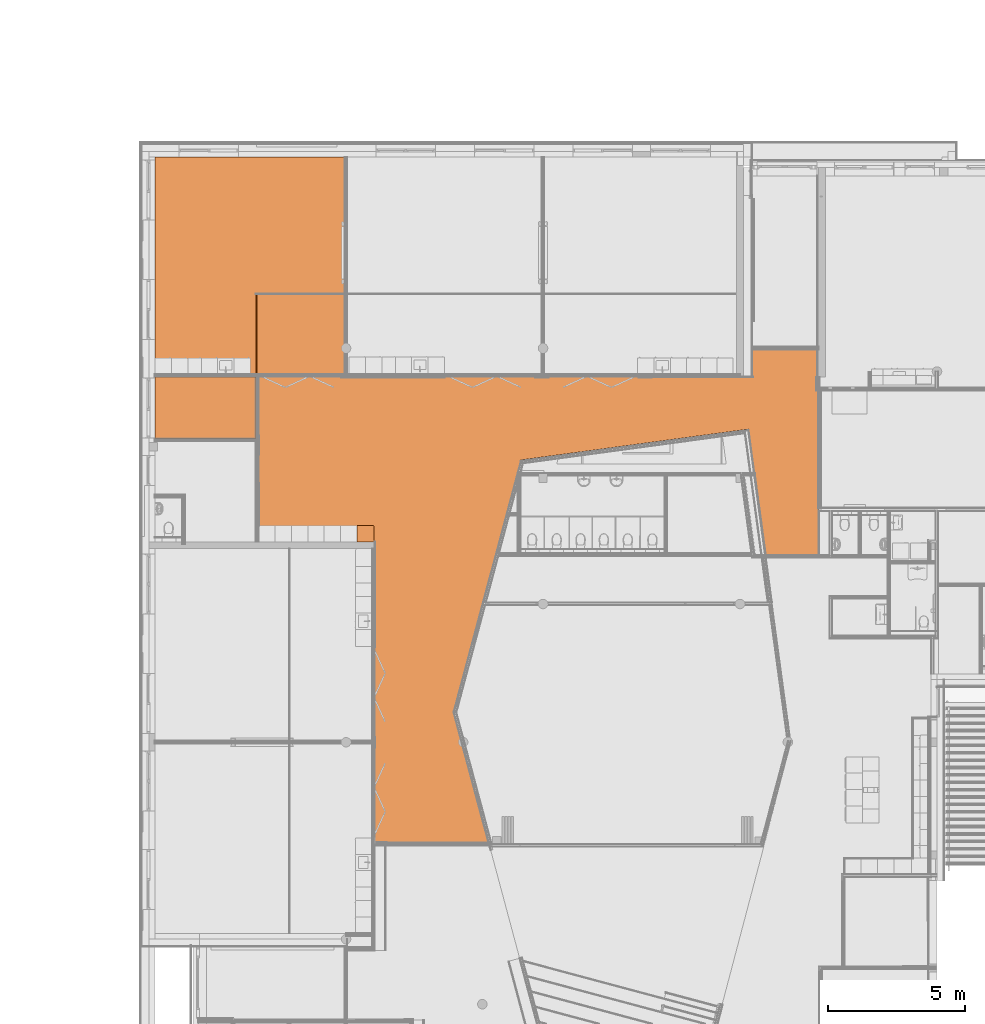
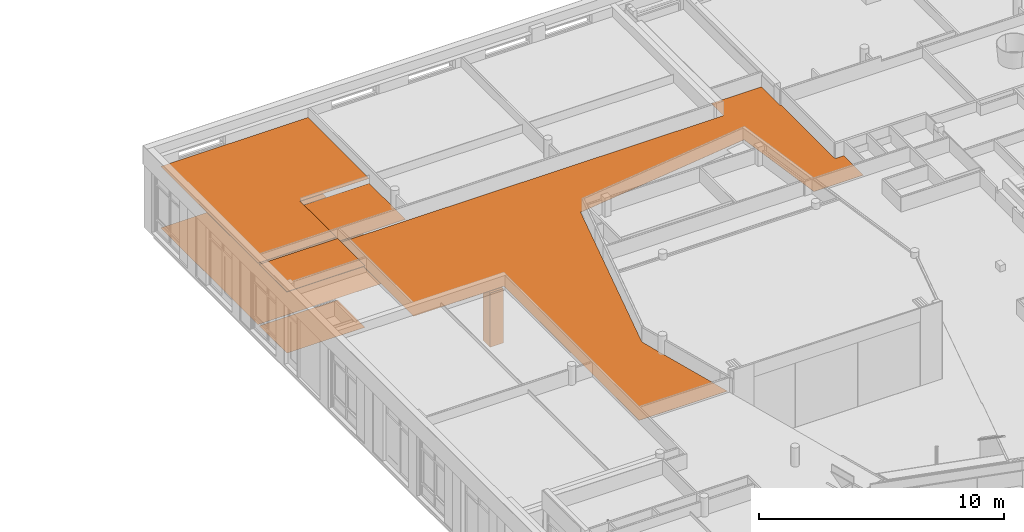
# One storey, part 130 of 167: 7 proxies.
"""IFC2X3 building model written with IfcOpenShell, lengths in millimetres."""

from ifc_helpers import new_model, entity, si_unit, converted_unit, derived_unit, money_unit, direction, frame, origin_with_axes, place, context, subcontext, project, spatial, open_shell, faceted_brep, surface_model, material, type_object, element, save


model = new_model("IFC2X3")

# Units and contexts
model_context = context("Model", 3, precision=0.01, world=origin_with_axes(), true_north=direction((0.0, 1.0)))
plan_context = context("Plan", 3, precision=0.01, world=origin_with_axes(), true_north=direction((0.0, 1.0)))
body_context = subcontext(model_context, "Body", "Model", "MODEL_VIEW")
ifc_project = project(units=[si_unit("LENGTHUNIT", "METRE", prefix="MILLI"), si_unit("AREAUNIT", "SQUARE_METRE"), si_unit("VOLUMEUNIT", "CUBIC_METRE"), converted_unit("PLANEANGLEUNIT", "DEGREE", entity("IfcPlaneAngleMeasure", 0.0174532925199), si_unit("PLANEANGLEUNIT", "RADIAN"), dimensions=[0, 0, 0, 0, 0, 0, 0]), si_unit("SOLIDANGLEUNIT", "STERADIAN"), money_unit("EUR"), converted_unit("TIMEUNIT", "Year", entity("IfcTimeMeasure", 31556926.0), si_unit("TIMEUNIT", "SECOND"), dimensions=[0, 0, 1, 0, 0, 0, 0]), si_unit("MASSUNIT", "GRAM", prefix="KILO"), si_unit("THERMODYNAMICTEMPERATUREUNIT", "DEGREE_CELSIUS"), si_unit("LUMINOUSINTENSITYUNIT", "LUMEN"), si_unit("ENERGYUNIT", "JOULE", prefix="MEGA"), derived_unit("THERMALCONDUCTANCEUNIT", [(si_unit("POWERUNIT", "WATT"), 1), (si_unit("LENGTHUNIT", "METRE"), -1), (si_unit("THERMODYNAMICTEMPERATUREUNIT", "KELVIN"), -1)]), derived_unit("SPECIFICHEATCAPACITYUNIT", [(si_unit("ENERGYUNIT", "JOULE"), 1), (si_unit("MASSUNIT", "GRAM", prefix="KILO"), -1), (si_unit("THERMODYNAMICTEMPERATUREUNIT", "KELVIN"), -1)]), derived_unit("MASSDENSITYUNIT", [(si_unit("MASSUNIT", "GRAM", prefix="KILO"), 1), (si_unit("VOLUMEUNIT", "CUBIC_METRE"), -1)])], contexts=[model_context, plan_context])

# Site, building, storey
site_placement = place(None, origin_with_axes())
site = spatial("IfcSite", under=ifc_project, at=site_placement, Name="Site", CompositionType="ELEMENT")
building_placement = place(site_placement, origin_with_axes())
building = spatial("IfcBuilding", under=site, at=building_placement, Name="Naam gebouw", CompositionType="ELEMENT")
storey_placement = place(building_placement, origin_with_axes())
storey = spatial("IfcBuildingStorey", under=building, at=storey_placement, Name="Begane grond", CompositionType="ELEMENT", Elevation=0.0)

# Proxies
ifc_material_1 = material(Name="ALG - BINNENAFWERKING")
building_element_proxy_type_1 = type_object("IfcBuildingElementProxyType", Name="ALG - BINNENAFWERKING 10", PredefinedType="NOTDEFINED")
proxy_1_placement = place(storey_placement, frame((3948.51453021, 42250.0, 2800.0), z_axis=(0.0, 0.0, 1.0), x_axis=(1.0, 0.0, 0.0)))
element("IfcBuildingElementProxy", 1, at=proxy_1_placement, inside=storey, type_object=building_element_proxy_type_1, material=ifc_material_1, Name="23__Vloer-x", context=body_context, shape_type="Brep", body=[
    faceted_brep([(0.0, 0.0, 10.0), (0.0, 0.0, 0.0), (3201.48546979, 0.0, 0.0), (3201.48546979, 0.0, 10.0), (0.0, 2950.0, 10.0), (0.0, 2950.0, 0.0), (3201.48546979, 2950.0, 0.0), (3201.48546979, 2950.0, 10.0)], [[[0, 1, 2, 3]], [[4, 5, 1, 0]], [[2, 1, 5, 6]], [[3, 2, 6, 7]], [[4, 0, 3, 7]], [[7, 6, 5, 4]]]),
])
proxy_2_placement = place(storey_placement, frame((214.0, 39900.0, 3050.0), z_axis=(0.0, 0.0, 1.0), x_axis=(1.0, 0.0, 0.0)))
element("IfcBuildingElementProxy", 2, at=proxy_2_placement, inside=storey, type_object=building_element_proxy_type_1, material=ifc_material_1, Name="23__Vloer-x", context=body_context, shape_type="Brep", body=[
    faceted_brep([(0.0282441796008, 2248.96564994, 0.0), (0.0279178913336, 2250.0, 0.0), (0.0279178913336, 2250.0, 10.0), (0.0282441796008, 2248.96564994, 10.0), (0.0, 0.0, 0.0), (0.000303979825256, 2250.0, 0.0), (3685.99999446, 2249.99989468, 0.0), (3685.99999446, 0.0, 0.0), (0.000303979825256, 2250.0, 10.0), (0.0, 0.0, 10.0), (3685.99999446, 0.0, 10.0), (3685.99999446, 2249.99989468, 10.0)], [[[0, 1, 2, 3]], [[4, 5, 1, 0, 6, 7]], [[5, 8, 2, 1]], [[3, 2, 8, 9, 10, 11]], [[3, 11, 6, 0]], [[9, 8, 5, 4]], [[11, 10, 7, 6]], [[10, 9, 4, 7]]]),
])
proxy_3_placement = place(storey_placement, frame((4000.0, 39850.0, 2800.0), z_axis=(0.0, 0.0, 1.0), x_axis=(1.0, 0.0, 0.0)))
element("IfcBuildingElementProxy", 3, at=proxy_3_placement, inside=storey, type_object=building_element_proxy_type_1, material=ifc_material_1, Name="23__Vloer-x", context=body_context, shape_type="Brep", body=[
    faceted_brep([(4250.0, -14728.4542428, 0.0), (8413.49140076, -14728.4542428, 0.0), (8413.49140076, -14728.4542428, 10.0), (4250.0, -14728.4542428, 10.0), (7135.7555353, -9959.87907427, 0.0), (4250.0, -3725.0, 0.0), (0.0, -3725.0, 0.0), (0.0, 2299.0, 0.0), (18049.0, 2299.0, 0.0), (18049.0, 2300.0, 0.0), (18085.0, 2300.0, 0.0), (18085.0, 2312.0, 0.0), (18049.0, 2312.0, 0.0), (18049.0, 3300.0, 0.0), (20415.0000092, 3300.0, 0.0), (20414.9982685, 1800.0, 0.0), (20463.5381221, 1800.00006903, 0.0), (20463.5381221, -2600.0, 0.0), (20475.0003574, -2600.0, 0.0), (20475.0003574, -2612.5, 0.0), (20875.0000137, -2612.5, 0.0), (20875.0000137, -4213.6468596, 0.0), (18545.3836014, -4213.6468596, 0.0), (18150.3595838, -1310.78837165, 0.0), (18158.0678024, -1310.78837165, 0.0), (18158.0678024, -1210.78837165, 0.0), (18136.7514793, -1210.78837165, 0.0), (17918.3963421, 393.807894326, 0.0), (9581.58750498, -735.317314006, 0.0), (7135.7555353, -9959.87907427, 10.0), (9581.58750498, -735.317314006, 10.0), (17918.3963421, 393.807894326, 10.0), (18136.7514793, -1210.78837165, 10.0), (18158.0678024, -1210.78837165, 10.0), (18158.0678024, -1310.78837165, 10.0), (18150.3595838, -1310.78837165, 10.0), (18545.3836014, -4213.6468596, 10.0), (20875.0000137, -4213.6468596, 10.0), (20875.0000137, -2612.5, 10.0), (20475.0003574, -2612.5, 10.0), (20475.0003574, -2600.0, 10.0), (20463.5381221, -2600.0, 10.0), (20463.5381221, 1800.00006903, 10.0), (20414.9982685, 1800.0, 10.0), (20415.0000092, 3300.0, 10.0), (18049.0, 3300.0, 10.0), (18049.0, 2312.0, 10.0), (18085.0, 2312.0, 10.0), (18085.0, 2300.0, 10.0), (18049.0, 2300.0, 10.0), (18049.0, 2299.0, 10.0), (0.0, 2299.0, 10.0), (0.0, -3725.0, 10.0), (4250.0, -3725.0, 10.0)], [[[0, 1, 2, 3]], [[4, 1, 0, 5, 6, 7, 8, 9, 10, 11, 12, 13, 14, 15, 16, 17, 18, 19, 20, 21, 22, 23, 24, 25, 26, 27, 28]], [[29, 2, 1, 4]], [[3, 2, 29, 30, 31, 32, 33, 34, 35, 36, 37, 38, 39, 40, 41, 42, 43, 44, 45, 46, 47, 48, 49, 50, 51, 52, 53]], [[3, 53, 5, 0]], [[53, 52, 6, 5]], [[52, 51, 7, 6]], [[51, 50, 8, 7]], [[50, 49, 9, 8]], [[9, 49, 48, 10]], [[10, 48, 47, 11]], [[11, 47, 46, 12]], [[13, 12, 46, 45]], [[45, 44, 14, 13]], [[44, 43, 15, 14]], [[43, 42, 16, 15]], [[42, 41, 17, 16]], [[41, 40, 18, 17]], [[19, 18, 40, 39]], [[19, 39, 38, 20]], [[21, 20, 38, 37]], [[37, 36, 22, 21]], [[36, 35, 23, 22]], [[23, 35, 34, 24]], [[33, 25, 24, 34]], [[25, 33, 32, 26]], [[27, 26, 32, 31]], [[31, 30, 28, 27]], [[30, 29, 4, 28]]]),
])
proxy_4_placement = place(storey_placement, frame((214.0, 50185.9999182, 3050.0), z_axis=(0.0, 0.0, 1.0), x_axis=(1.0, 0.0, 0.0)))
element("IfcBuildingElementProxy", 4, at=proxy_4_placement, inside=storey, type_object=building_element_proxy_type_1, material=ifc_material_1, Name="23__Vloer-x", context=body_context, shape_type="Brep", body=[
    faceted_brep([(3685.97206763, -7935.99991824, 0.0), (3685.14410061, -5010.99991824, 0.0), (3685.14410061, -5010.99991824, 10.0), (3685.97206763, -7935.99991824, 10.0), (3685.14410061, -4985.99991824, 0.0), (0.00031730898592, -7935.99991824, 0.0), (0.0, 0.0, 0.0), (6935.99998337, 0.0, 0.0), (6935.99998337, -4985.99992655, 0.0), (3685.14410061, -4985.99991824, 10.0), (6935.99998337, -4985.99992655, 10.0), (6935.99998337, 0.0, 10.0), (0.0, 0.0, 10.0), (0.00031730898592, -7935.99991824, 10.0)], [[[0, 1, 2, 3]], [[4, 1, 0, 5, 6, 7, 8]], [[1, 4, 9, 2]], [[2, 9, 10, 11, 12, 13, 3]], [[13, 5, 0, 3]], [[12, 6, 5, 13]], [[11, 7, 6, 12]], [[10, 8, 7, 11]], [[10, 9, 4, 8]]]),
])
building_element_proxy_type_2 = type_object("IfcBuildingElementProxyType", Name="Kast hoog 1D 24", PredefinedType="NOTDEFINED")
proxy_5_placement = place(storey_placement, frame((8220.0, 36725.0, 0.0), z_axis=(0.0, 0.0, 1.0), x_axis=(-1.0, 0.0, 0.0)))
element("IfcBuildingElementProxy", 5, at=proxy_5_placement, inside=storey, type_object=building_element_proxy_type_2, Name="__Object-x", context=body_context, shape_type="SurfaceModel", body=[
    faceted_brep([(40.0, 20.0, 1780.0), (600.0, 20.0, 1780.0), (600.0, 20.0, 1800.0), (40.0, 20.0, 1800.0), (40.0, 580.0, 1780.0), (600.0, 580.0, 1780.0), (600.0, 580.0, 1800.0), (40.0, 580.0, 1800.0)], [[[0, 1, 2, 3]], [[0, 4, 5, 1]], [[1, 5, 6, 2]], [[3, 2, 6, 7]], [[4, 0, 3, 7]], [[5, 4, 7, 6]]]),
    faceted_brep([(20.0, 20.0, 0.0), (620.0, 20.0, 0.0), (620.0, 20.0, 90.0), (20.0, 20.0, 90.0), (20.0, 600.0, 0.0), (620.0, 600.0, 0.0), (620.0, 600.0, 90.0), (20.0, 600.0, 90.0)], [[[0, 1, 2, 3]], [[0, 4, 5, 1]], [[1, 5, 6, 2]], [[3, 2, 6, 7]], [[4, 0, 3, 7]], [[5, 4, 7, 6]]]),
    faceted_brep([(20.0, 20.0, 2680.0), (40.0, 20.0, 2680.0), (40.0, 20.0, 2700.0), (20.0, 20.0, 2700.0), (20.0, 600.0, 2680.0), (40.0, 600.0, 2680.0), (600.0, 600.0, 2680.0), (620.0, 600.0, 2680.0), (620.0, 20.0, 2680.0), (600.0, 20.0, 2680.0), (600.0, 20.0, 2700.0), (620.0, 20.0, 2700.0), (620.0, 600.0, 2700.0), (600.0, 600.0, 2700.0), (40.0, 600.0, 2700.0), (20.0, 600.0, 2700.0)], [[[0, 1, 2, 3]], [[0, 4, 5, 6, 7, 8, 9, 1]], [[1, 9, 10, 2]], [[3, 2, 10, 11, 12, 13, 14, 15]], [[4, 0, 3, 15]], [[5, 4, 15, 14]], [[6, 5, 14, 13]], [[7, 6, 13, 12]], [[8, 7, 12, 11]], [[9, 8, 11, 10]]]),
    faceted_brep([(20.0, 20.0, 90.0), (40.0, 20.0, 90.0), (40.0, 20.0, 110.0), (20.0, 20.0, 110.0), (20.0, 600.0, 90.0), (40.0, 600.0, 90.0), (600.0, 600.0, 90.0), (620.0, 600.0, 90.0), (620.0, 20.0, 90.0), (600.0, 20.0, 90.0), (600.0, 20.0, 110.0), (620.0, 20.0, 110.0), (620.0, 600.0, 110.0), (600.0, 600.0, 110.0), (40.0, 600.0, 110.0), (20.0, 600.0, 110.0)], [[[0, 1, 2, 3]], [[0, 4, 5, 6, 7, 8, 9, 1]], [[1, 9, 10, 2]], [[3, 2, 10, 11, 12, 13, 14, 15]], [[4, 0, 3, 15]], [[5, 4, 15, 14]], [[6, 5, 14, 13]], [[7, 6, 13, 12]], [[8, 7, 12, 11]], [[9, 8, 11, 10]]]),
    faceted_brep([(20.0, 20.0, 110.0), (40.0, 20.0, 110.0), (40.0, 20.0, 2680.0), (20.0, 20.0, 2680.0), (20.0, 600.0, 110.0), (620.0, 600.0, 110.0), (620.0, 20.0, 110.0), (600.0, 20.0, 110.0), (600.0, 580.0, 110.0), (40.0, 580.0, 110.0), (40.0, 580.0, 2680.0), (600.0, 580.0, 2680.0), (600.0, 20.0, 2680.0), (620.0, 20.0, 2680.0), (620.0, 600.0, 2680.0), (20.0, 600.0, 2680.0)], [[[0, 1, 2, 3]], [[0, 4, 5, 6, 7, 8, 9, 1]], [[1, 9, 10, 2]], [[3, 2, 10, 11, 12, 13, 14, 15]], [[4, 0, 3, 15]], [[5, 4, 15, 14]], [[6, 5, 14, 13]], [[7, 6, 13, 12]], [[8, 7, 12, 11]], [[9, 8, 11, 10]]]),
    faceted_brep([(600.0, 20.0, 414.0), (600.0, 580.0, 414.0), (600.0, 580.0, 434.0), (600.0, 20.0, 434.0), (40.0, 20.0, 414.0), (40.0, 580.0, 414.0), (40.0, 580.0, 434.0), (40.0, 20.0, 434.0)], [[[0, 1, 2, 3]], [[0, 4, 5, 1]], [[1, 5, 6, 2]], [[3, 2, 6, 7]], [[4, 0, 3, 7]], [[5, 4, 7, 6]]]),
    faceted_brep([(600.0, 20.0, 758.0), (600.0, 580.0, 758.0), (600.0, 580.0, 778.0), (600.0, 20.0, 778.0), (40.0, 20.0, 758.0), (40.0, 580.0, 758.0), (40.0, 580.0, 778.0), (40.0, 20.0, 778.0)], [[[0, 1, 2, 3]], [[0, 4, 5, 1]], [[1, 5, 6, 2]], [[3, 2, 6, 7]], [[4, 0, 3, 7]], [[5, 4, 7, 6]]]),
    faceted_brep([(600.0, 20.0, 1102.0), (600.0, 580.0, 1102.0), (600.0, 580.0, 1122.0), (600.0, 20.0, 1122.0), (40.0, 20.0, 1102.0), (40.0, 580.0, 1102.0), (40.0, 580.0, 1122.0), (40.0, 20.0, 1122.0)], [[[0, 1, 2, 3]], [[0, 4, 5, 1]], [[1, 5, 6, 2]], [[3, 2, 6, 7]], [[4, 0, 3, 7]], [[5, 4, 7, 6]]]),
    faceted_brep([(600.0, 20.0, 1446.0), (600.0, 580.0, 1446.0), (600.0, 580.0, 1466.0), (600.0, 20.0, 1466.0), (40.0, 20.0, 1446.0), (40.0, 580.0, 1446.0), (40.0, 580.0, 1466.0), (40.0, 20.0, 1466.0)], [[[0, 1, 2, 3]], [[0, 4, 5, 1]], [[1, 5, 6, 2]], [[3, 2, 6, 7]], [[4, 0, 3, 7]], [[5, 4, 7, 6]]]),
    faceted_brep([(21.5, 20.0, 91.5), (618.5, 20.0, 91.5), (618.5, 0.0, 91.5), (21.5, 0.0, 91.5), (21.5, 20.0, 1788.5), (618.5, 20.0, 1788.5), (618.5, 0.0, 1788.5), (21.5, 0.0, 1788.5)], [[[0, 1, 2, 3]], [[0, 4, 5, 1]], [[1, 5, 6, 2]], [[3, 2, 6, 7]], [[4, 0, 3, 7]], [[5, 4, 7, 6]]]),
    faceted_brep([(571.397777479, -27.7764571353, 891.5), (571.098076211, -28.5, 891.5), (570.621320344, -29.1213203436, 891.5), (570.0, -29.5980762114, 891.5), (569.276457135, -29.8977774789, 891.5), (568.5, -30.0, 891.5), (567.723542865, -29.8977774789, 891.5), (567.0, -29.5980762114, 891.5), (566.378679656, -29.1213203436, 891.5), (565.901923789, -28.5, 891.5), (565.602222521, -27.7764571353, 891.5), (565.5, -27.0, 891.5), (565.602222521, -26.2235428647, 891.5), (565.901923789, -25.5, 891.5), (566.378679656, -24.8786796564, 891.5), (567.0, -24.4019237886, 891.5), (567.723542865, -24.1022225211, 891.5), (568.5, -24.0, 891.5), (569.276457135, -24.1022225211, 891.5), (570.0, -24.4019237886, 891.5), (570.621320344, -24.8786796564, 891.5), (571.098076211, -25.5, 891.5), (571.397777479, -26.2235428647, 891.5), (571.5, -27.0, 891.5), (571.397777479, -27.7764571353, 1141.5), (571.098076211, -28.5, 1141.5), (570.621320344, -29.1213203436, 1141.5), (570.0, -29.5980762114, 1141.5), (569.276457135, -29.8977774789, 1141.5), (568.5, -30.0, 1141.5), (567.723542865, -29.8977774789, 1141.5), (567.0, -29.5980762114, 1141.5), (566.378679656, -29.1213203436, 1141.5), (565.901923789, -28.5, 1141.5), (565.602222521, -27.7764571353, 1141.5), (565.5, -27.0, 1141.5), (565.602222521, -26.2235428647, 1141.5), (565.901923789, -25.5, 1141.5), (566.378679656, -24.8786796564, 1141.5), (567.0, -24.4019237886, 1141.5), (567.723542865, -24.1022225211, 1141.5), (568.5, -24.0, 1141.5), (569.276457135, -24.1022225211, 1141.5), (570.0, -24.4019237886, 1141.5), (570.621320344, -24.8786796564, 1141.5), (571.098076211, -25.5, 1141.5), (571.397777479, -26.2235428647, 1141.5), (571.5, -27.0, 1141.5)], [[[0, 1, 2, 3, 4, 5, 6, 7, 8, 9, 10, 11, 12, 13, 14, 15, 16, 17, 18, 19, 20, 21, 22, 23]], [[1, 0, 24, 25]], [[2, 1, 25, 26]], [[3, 2, 26, 27]], [[4, 3, 27, 28]], [[5, 4, 28, 29]], [[6, 5, 29, 30]], [[7, 6, 30, 31]], [[8, 7, 31, 32]], [[9, 8, 32, 33]], [[10, 9, 33, 34]], [[11, 10, 34, 35]], [[12, 11, 35, 36]], [[13, 12, 36, 37]], [[14, 13, 37, 38]], [[15, 14, 38, 39]], [[16, 15, 39, 40]], [[17, 16, 40, 41]], [[18, 17, 41, 42]], [[19, 18, 42, 43]], [[20, 19, 43, 44]], [[21, 20, 44, 45]], [[22, 21, 45, 46]], [[23, 22, 46, 47]], [[0, 23, 47, 24]], [[24, 47, 46, 45, 44, 43, 42, 41, 40, 39, 38, 37, 36, 35, 34, 33, 32, 31, 30, 29, 28, 27, 26, 25]]]),
    surface_model("IfcShellBasedSurfaceModel", [(569.147047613, -24.070609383, 914.085185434), (568.5, -24.0, 914.0), (568.5, 0.0, 914.0), (569.147047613, 0.0, 914.085185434), (567.852952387, -24.070609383, 914.085185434), (567.852952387, 0.0, 914.085185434), (567.25, 0.0, 914.334936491), (566.732233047, 0.0, 914.732233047), (566.334936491, 0.0, 915.25), (566.085185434, 0.0, 915.852952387), (566.0, 0.0, 916.5), (566.085185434, 0.0, 917.147047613), (566.334936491, 0.0, 917.75), (566.732233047, 0.0, 918.267766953), (567.25, 0.0, 918.665063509), (567.852952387, 0.0, 918.914814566), (568.5, 0.0, 919.0), (569.147047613, 0.0, 918.914814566), (569.75, 0.0, 918.665063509), (570.267766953, 0.0, 918.267766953), (570.665063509, 0.0, 917.75), (570.914814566, 0.0, 917.147047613), (571.0, 0.0, 916.5), (570.914814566, 0.0, 915.852952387), (570.665063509, 0.0, 915.25), (570.267766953, 0.0, 914.732233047), (569.75, 0.0, 914.334936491), (569.75, -24.2728219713, 914.334936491), (567.25, -24.2728219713, 914.334936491), (566.732233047, -24.5761600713, 914.732233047), (566.334936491, -24.9233440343, 915.25), (566.085185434, -25.2199239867, 915.852952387), (566.0, -25.3416876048, 916.5), (566.085185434, -25.2199239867, 917.147047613), (566.334936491, -24.9233440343, 917.75), (566.732233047, -24.5761600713, 918.267766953), (567.25, -24.2728219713, 918.665063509), (567.852952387, -24.070609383, 918.914814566), (568.5, -24.0, 919.0), (569.147047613, -24.070609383, 918.914814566), (569.75, -24.2728219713, 918.665063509), (570.267766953, -24.5761600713, 918.267766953), (570.665063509, -24.9233440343, 917.75), (570.914814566, -25.2199239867, 917.147047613), (571.0, -25.3416876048, 916.5), (570.914814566, -25.2199239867, 915.852952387), (570.665063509, -24.9233440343, 915.25), (570.267766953, -24.5761600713, 914.732233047)], [open_shell([[[0, 1, 2, 3]], [[1, 4, 5, 2]], [[3, 2, 5, 6, 7, 8, 9, 10, 11, 12, 13, 14, 15, 16, 17, 18, 19, 20, 21, 22, 23, 24, 25, 26]], [[27, 0, 3, 26]], [[4, 28, 6, 5]], [[28, 29, 7, 6]], [[29, 30, 8, 7]], [[30, 31, 9, 8]], [[31, 32, 10, 9]], [[32, 33, 11, 10]], [[33, 34, 12, 11]], [[34, 35, 13, 12]], [[35, 36, 14, 13]], [[36, 37, 15, 14]], [[37, 38, 16, 15]], [[38, 39, 17, 16]], [[39, 40, 18, 17]], [[40, 41, 19, 18]], [[41, 42, 20, 19]], [[42, 43, 21, 20]], [[43, 44, 22, 21]], [[44, 45, 23, 22]], [[45, 46, 24, 23]], [[46, 47, 25, 24]], [[47, 27, 26, 25]]])]),
    surface_model("IfcShellBasedSurfaceModel", [(569.147047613, -24.070609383, 1114.08518543), (568.5, -24.0, 1114.0), (568.5, 0.0, 1114.0), (569.147047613, 0.0, 1114.08518543), (567.852952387, -24.070609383, 1114.08518543), (567.852952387, 0.0, 1114.08518543), (567.25, 0.0, 1114.33493649), (566.732233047, 0.0, 1114.73223305), (566.334936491, 0.0, 1115.25), (566.085185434, 0.0, 1115.85295239), (566.0, 0.0, 1116.5), (566.085185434, 0.0, 1117.14704761), (566.334936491, 0.0, 1117.75), (566.732233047, 0.0, 1118.26776695), (567.25, 0.0, 1118.66506351), (567.852952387, 0.0, 1118.91481457), (568.5, 0.0, 1119.0), (569.147047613, 0.0, 1118.91481457), (569.75, 0.0, 1118.66506351), (570.267766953, 0.0, 1118.26776695), (570.665063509, 0.0, 1117.75), (570.914814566, 0.0, 1117.14704761), (571.0, 0.0, 1116.5), (570.914814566, 0.0, 1115.85295239), (570.665063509, 0.0, 1115.25), (570.267766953, 0.0, 1114.73223305), (569.75, 0.0, 1114.33493649), (569.75, -24.2728219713, 1114.33493649), (567.25, -24.2728219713, 1114.33493649), (566.732233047, -24.5761600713, 1114.73223305), (566.334936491, -24.9233440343, 1115.25), (566.085185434, -25.2199239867, 1115.85295239), (566.0, -25.3416876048, 1116.5), (566.085185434, -25.2199239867, 1117.14704761), (566.334936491, -24.9233440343, 1117.75), (566.732233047, -24.5761600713, 1118.26776695), (567.25, -24.2728219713, 1118.66506351), (567.852952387, -24.070609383, 1118.91481457), (568.5, -24.0, 1119.0), (569.147047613, -24.070609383, 1118.91481457), (569.75, -24.2728219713, 1118.66506351), (570.267766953, -24.5761600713, 1118.26776695), (570.665063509, -24.9233440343, 1117.75), (570.914814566, -25.2199239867, 1117.14704761), (571.0, -25.3416876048, 1116.5), (570.914814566, -25.2199239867, 1115.85295239), (570.665063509, -24.9233440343, 1115.25), (570.267766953, -24.5761600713, 1114.73223305)], [open_shell([[[0, 1, 2, 3]], [[1, 4, 5, 2]], [[3, 2, 5, 6, 7, 8, 9, 10, 11, 12, 13, 14, 15, 16, 17, 18, 19, 20, 21, 22, 23, 24, 25, 26]], [[27, 0, 3, 26]], [[4, 28, 6, 5]], [[28, 29, 7, 6]], [[29, 30, 8, 7]], [[30, 31, 9, 8]], [[31, 32, 10, 9]], [[32, 33, 11, 10]], [[33, 34, 12, 11]], [[34, 35, 13, 12]], [[35, 36, 14, 13]], [[36, 37, 15, 14]], [[37, 38, 16, 15]], [[38, 39, 17, 16]], [[39, 40, 18, 17]], [[40, 41, 19, 18]], [[41, 42, 20, 19]], [[42, 43, 21, 20]], [[43, 44, 22, 21]], [[44, 45, 23, 22]], [[45, 46, 24, 23]], [[46, 47, 25, 24]], [[47, 27, 26, 25]]])]),
    faceted_brep([(21.5, 20.0, 1791.5), (618.5, 20.0, 1791.5), (618.5, 0.0, 1791.5), (21.5, 0.0, 1791.5), (21.5, 20.0, 2698.5), (618.5, 20.0, 2698.5), (618.5, 0.0, 2698.5), (21.5, 0.0, 2698.5)], [[[0, 1, 2, 3]], [[0, 4, 5, 1]], [[1, 5, 6, 2]], [[3, 2, 6, 7]], [[4, 0, 3, 7]], [[5, 4, 7, 6]]]),
    faceted_brep([(571.397777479, -27.7764571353, 1841.5), (571.098076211, -28.5, 1841.5), (570.621320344, -29.1213203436, 1841.5), (570.0, -29.5980762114, 1841.5), (569.276457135, -29.8977774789, 1841.5), (568.5, -30.0, 1841.5), (567.723542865, -29.8977774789, 1841.5), (567.0, -29.5980762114, 1841.5), (566.378679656, -29.1213203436, 1841.5), (565.901923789, -28.5, 1841.5), (565.602222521, -27.7764571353, 1841.5), (565.5, -27.0, 1841.5), (565.602222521, -26.2235428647, 1841.5), (565.901923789, -25.5, 1841.5), (566.378679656, -24.8786796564, 1841.5), (567.0, -24.4019237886, 1841.5), (567.723542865, -24.1022225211, 1841.5), (568.5, -24.0, 1841.5), (569.276457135, -24.1022225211, 1841.5), (570.0, -24.4019237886, 1841.5), (570.621320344, -24.8786796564, 1841.5), (571.098076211, -25.5, 1841.5), (571.397777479, -26.2235428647, 1841.5), (571.5, -27.0, 1841.5), (571.397777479, -27.7764571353, 2091.5), (571.098076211, -28.5, 2091.5), (570.621320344, -29.1213203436, 2091.5), (570.0, -29.5980762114, 2091.5), (569.276457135, -29.8977774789, 2091.5), (568.5, -30.0, 2091.5), (567.723542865, -29.8977774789, 2091.5), (567.0, -29.5980762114, 2091.5), (566.378679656, -29.1213203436, 2091.5), (565.901923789, -28.5, 2091.5), (565.602222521, -27.7764571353, 2091.5), (565.5, -27.0, 2091.5), (565.602222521, -26.2235428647, 2091.5), (565.901923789, -25.5, 2091.5), (566.378679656, -24.8786796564, 2091.5), (567.0, -24.4019237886, 2091.5), (567.723542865, -24.1022225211, 2091.5), (568.5, -24.0, 2091.5), (569.276457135, -24.1022225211, 2091.5), (570.0, -24.4019237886, 2091.5), (570.621320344, -24.8786796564, 2091.5), (571.098076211, -25.5, 2091.5), (571.397777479, -26.2235428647, 2091.5), (571.5, -27.0, 2091.5)], [[[0, 1, 2, 3, 4, 5, 6, 7, 8, 9, 10, 11, 12, 13, 14, 15, 16, 17, 18, 19, 20, 21, 22, 23]], [[1, 0, 24, 25]], [[2, 1, 25, 26]], [[3, 2, 26, 27]], [[4, 3, 27, 28]], [[5, 4, 28, 29]], [[6, 5, 29, 30]], [[7, 6, 30, 31]], [[8, 7, 31, 32]], [[9, 8, 32, 33]], [[10, 9, 33, 34]], [[11, 10, 34, 35]], [[12, 11, 35, 36]], [[13, 12, 36, 37]], [[14, 13, 37, 38]], [[15, 14, 38, 39]], [[16, 15, 39, 40]], [[17, 16, 40, 41]], [[18, 17, 41, 42]], [[19, 18, 42, 43]], [[20, 19, 43, 44]], [[21, 20, 44, 45]], [[22, 21, 45, 46]], [[23, 22, 46, 47]], [[0, 23, 47, 24]], [[24, 47, 46, 45, 44, 43, 42, 41, 40, 39, 38, 37, 36, 35, 34, 33, 32, 31, 30, 29, 28, 27, 26, 25]]]),
    surface_model("IfcShellBasedSurfaceModel", [(569.147047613, -24.070609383, 1864.08518543), (568.5, -24.0, 1864.0), (568.5, 0.0, 1864.0), (569.147047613, 0.0, 1864.08518543), (567.852952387, -24.070609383, 1864.08518543), (567.852952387, 0.0, 1864.08518543), (567.25, 0.0, 1864.33493649), (566.732233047, 0.0, 1864.73223305), (566.334936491, 0.0, 1865.25), (566.085185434, 0.0, 1865.85295239), (566.0, 0.0, 1866.5), (566.085185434, 0.0, 1867.14704761), (566.334936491, 0.0, 1867.75), (566.732233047, 0.0, 1868.26776695), (567.25, 0.0, 1868.66506351), (567.852952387, 0.0, 1868.91481457), (568.5, 0.0, 1869.0), (569.147047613, 0.0, 1868.91481457), (569.75, 0.0, 1868.66506351), (570.267766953, 0.0, 1868.26776695), (570.665063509, 0.0, 1867.75), (570.914814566, 0.0, 1867.14704761), (571.0, 0.0, 1866.5), (570.914814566, 0.0, 1865.85295239), (570.665063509, 0.0, 1865.25), (570.267766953, 0.0, 1864.73223305), (569.75, 0.0, 1864.33493649), (569.75, -24.2728219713, 1864.33493649), (567.25, -24.2728219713, 1864.33493649), (566.732233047, -24.5761600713, 1864.73223305), (566.334936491, -24.9233440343, 1865.25), (566.085185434, -25.2199239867, 1865.85295239), (566.0, -25.3416876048, 1866.5), (566.085185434, -25.2199239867, 1867.14704761), (566.334936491, -24.9233440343, 1867.75), (566.732233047, -24.5761600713, 1868.26776695), (567.25, -24.2728219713, 1868.66506351), (567.852952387, -24.070609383, 1868.91481457), (568.5, -24.0, 1869.0), (569.147047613, -24.070609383, 1868.91481457), (569.75, -24.2728219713, 1868.66506351), (570.267766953, -24.5761600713, 1868.26776695), (570.665063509, -24.9233440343, 1867.75), (570.914814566, -25.2199239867, 1867.14704761), (571.0, -25.3416876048, 1866.5), (570.914814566, -25.2199239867, 1865.85295239), (570.665063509, -24.9233440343, 1865.25), (570.267766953, -24.5761600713, 1864.73223305)], [open_shell([[[0, 1, 2, 3]], [[1, 4, 5, 2]], [[3, 2, 5, 6, 7, 8, 9, 10, 11, 12, 13, 14, 15, 16, 17, 18, 19, 20, 21, 22, 23, 24, 25, 26]], [[27, 0, 3, 26]], [[4, 28, 6, 5]], [[28, 29, 7, 6]], [[29, 30, 8, 7]], [[30, 31, 9, 8]], [[31, 32, 10, 9]], [[32, 33, 11, 10]], [[33, 34, 12, 11]], [[34, 35, 13, 12]], [[35, 36, 14, 13]], [[36, 37, 15, 14]], [[37, 38, 16, 15]], [[38, 39, 17, 16]], [[39, 40, 18, 17]], [[40, 41, 19, 18]], [[41, 42, 20, 19]], [[42, 43, 21, 20]], [[43, 44, 22, 21]], [[44, 45, 23, 22]], [[45, 46, 24, 23]], [[46, 47, 25, 24]], [[47, 27, 26, 25]]])]),
    surface_model("IfcShellBasedSurfaceModel", [(569.147047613, -24.070609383, 2064.08518543), (568.5, -24.0, 2064.0), (568.5, 0.0, 2064.0), (569.147047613, 0.0, 2064.08518543), (567.852952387, -24.070609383, 2064.08518543), (567.852952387, 0.0, 2064.08518543), (567.25, 0.0, 2064.33493649), (566.732233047, 0.0, 2064.73223305), (566.334936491, 0.0, 2065.25), (566.085185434, 0.0, 2065.85295239), (566.0, 0.0, 2066.5), (566.085185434, 0.0, 2067.14704761), (566.334936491, 0.0, 2067.75), (566.732233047, 0.0, 2068.26776695), (567.25, 0.0, 2068.66506351), (567.852952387, 0.0, 2068.91481457), (568.5, 0.0, 2069.0), (569.147047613, 0.0, 2068.91481457), (569.75, 0.0, 2068.66506351), (570.267766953, 0.0, 2068.26776695), (570.665063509, 0.0, 2067.75), (570.914814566, 0.0, 2067.14704761), (571.0, 0.0, 2066.5), (570.914814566, 0.0, 2065.85295239), (570.665063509, 0.0, 2065.25), (570.267766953, 0.0, 2064.73223305), (569.75, 0.0, 2064.33493649), (569.75, -24.2728219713, 2064.33493649), (567.25, -24.2728219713, 2064.33493649), (566.732233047, -24.5761600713, 2064.73223305), (566.334936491, -24.9233440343, 2065.25), (566.085185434, -25.2199239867, 2065.85295239), (566.0, -25.3416876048, 2066.5), (566.085185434, -25.2199239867, 2067.14704761), (566.334936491, -24.9233440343, 2067.75), (566.732233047, -24.5761600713, 2068.26776695), (567.25, -24.2728219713, 2068.66506351), (567.852952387, -24.070609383, 2068.91481457), (568.5, -24.0, 2069.0), (569.147047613, -24.070609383, 2068.91481457), (569.75, -24.2728219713, 2068.66506351), (570.267766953, -24.5761600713, 2068.26776695), (570.665063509, -24.9233440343, 2067.75), (570.914814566, -25.2199239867, 2067.14704761), (571.0, -25.3416876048, 2066.5), (570.914814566, -25.2199239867, 2065.85295239), (570.665063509, -24.9233440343, 2065.25), (570.267766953, -24.5761600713, 2064.73223305)], [open_shell([[[0, 1, 2, 3]], [[1, 4, 5, 2]], [[3, 2, 5, 6, 7, 8, 9, 10, 11, 12, 13, 14, 15, 16, 17, 18, 19, 20, 21, 22, 23, 24, 25, 26]], [[27, 0, 3, 26]], [[4, 28, 6, 5]], [[28, 29, 7, 6]], [[29, 30, 8, 7]], [[30, 31, 9, 8]], [[31, 32, 10, 9]], [[32, 33, 11, 10]], [[33, 34, 12, 11]], [[34, 35, 13, 12]], [[35, 36, 14, 13]], [[36, 37, 15, 14]], [[37, 38, 16, 15]], [[38, 39, 17, 16]], [[39, 40, 18, 17]], [[40, 41, 19, 18]], [[41, 42, 20, 19]], [[42, 43, 21, 20]], [[43, 44, 22, 21]], [[44, 45, 23, 22]], [[45, 46, 24, 23]], [[46, 47, 25, 24]], [[47, 27, 26, 25]]])]),
    faceted_brep([(20.0, 598.5, 1.5), (20.0, 21.5, 1.5), (0.0, 21.5, 1.5), (0.0, 598.5, 1.5), (20.0, 598.5, 1788.5), (20.0, 21.5, 1788.5), (0.0, 21.5, 1788.5), (0.0, 598.5, 1788.5)], [[[0, 1, 2, 3]], [[0, 4, 5, 1]], [[1, 5, 6, 2]], [[3, 2, 6, 7]], [[4, 0, 3, 7]], [[5, 4, 7, 6]]]),
    faceted_brep([(20.0, 598.5, 1791.5), (20.0, 21.5, 1791.5), (0.0, 21.5, 1791.5), (0.0, 598.5, 1791.5), (20.0, 598.5, 2698.5), (20.0, 21.5, 2698.5), (0.0, 21.5, 2698.5), (0.0, 598.5, 2698.5)], [[[0, 1, 2, 3]], [[0, 4, 5, 1]], [[1, 5, 6, 2]], [[3, 2, 6, 7]], [[4, 0, 3, 7]], [[5, 4, 7, 6]]]),
])
ifc_material_2 = material(Name="_TenW_43_Marmoleum Salsa Verde")
building_element_proxy_type_3 = type_object("IfcBuildingElementProxyType", Name="_TenW_43_Marmoleum Salsa Verde 2", PredefinedType="NOTDEFINED")
proxy_6_placement = place(storey_placement, frame((214.0, 42250.0, 0.0), z_axis=(0.0, 0.0, 1.0), x_axis=(1.0, 0.0, 0.0)))
element("IfcBuildingElementProxy", 6, at=proxy_6_placement, inside=storey, type_object=building_element_proxy_type_3, material=ifc_material_2, Name="23__Vloer-x", context=body_context, shape_type="Brep", body=[
    faceted_brep([(0.0, 0.0, 2.0), (0.0, 0.0, 0.0), (6936.0, 0.0, 0.0), (6936.0, 0.0, 2.0), (0.0, 7936.0, 2.0), (0.0, 7936.0, 0.0), (6936.0, 7936.0, 0.0), (6936.0, 7936.0, 2.0)], [[[0, 1, 2, 3]], [[4, 5, 1, 0]], [[2, 1, 5, 6]], [[3, 2, 6, 7]], [[4, 0, 3, 7]], [[7, 6, 5, 4]]]),
])
proxy_7_placement = place(storey_placement, frame((214.0, 39900.0, 0.0), z_axis=(0.0, 0.0, 1.0), x_axis=(1.0, 0.0, 0.0)))
element("IfcBuildingElementProxy", 7, at=proxy_7_placement, inside=storey, type_object=building_element_proxy_type_3, material=ifc_material_2, Name="23__Vloer-x", context=body_context, shape_type="Brep", body=[
    faceted_brep([(0.0, 0.0, 2.0), (0.0, 0.0, 0.0), (3686.0, 0.0, 0.0), (3686.0, 0.0, 2.0), (0.0, 2250.0, 2.0), (0.0, 2250.0, 0.0), (3686.0, 2250.0, 0.0), (3686.0, 2250.0, 2.0)], [[[0, 1, 2, 3]], [[4, 5, 1, 0]], [[2, 1, 5, 6]], [[3, 2, 6, 7]], [[4, 0, 3, 7]], [[7, 6, 5, 4]]]),
])

save(model, "model.ifc")
